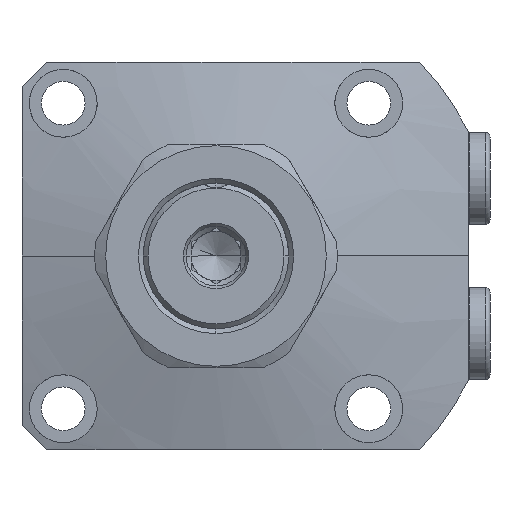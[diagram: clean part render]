
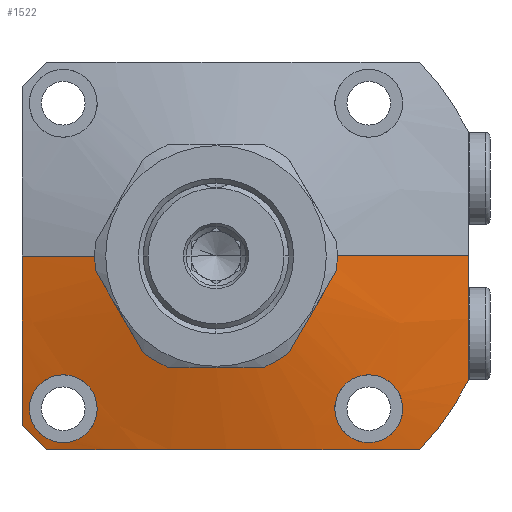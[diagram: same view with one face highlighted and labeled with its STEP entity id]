
A CAD part, left-side view. The second image highlights one B-rep face of the part: STEP entity #1522.
In plain terms, the highlighted conical face has half-angle 75 degrees and reference radius 22.5 mm.
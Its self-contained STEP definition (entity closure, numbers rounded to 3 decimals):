
#1093=FACE_BOUND('',#2146,.T.);
#1094=FACE_BOUND('',#2147,.T.);
#1095=FACE_BOUND('',#2148,.T.);
#1175=B_SPLINE_CURVE_WITH_KNOTS('',3,(#8803,#8804,#8805,#8806,#8807,#8808,
#8809,#8810,#8811,#8812),.UNSPECIFIED.,.F.,.F.,(4,2,2,2,4),(0.,0.25,0.5,
0.75,1.),.UNSPECIFIED.);
#1176=B_SPLINE_CURVE_WITH_KNOTS('',3,(#8821,#8822,#8823,#8824,#8825,#8826,
#8827,#8828,#8829,#8830),.UNSPECIFIED.,.F.,.F.,(4,2,2,2,4),(0.,0.25,0.5,
0.75,1.),.UNSPECIFIED.);
#1187=B_SPLINE_CURVE_WITH_KNOTS('',3,(#9226,#9227,#9228,#9229),
 .UNSPECIFIED.,.F.,.F.,(4,4),(0.,1.),.UNSPECIFIED.);
#1188=B_SPLINE_CURVE_WITH_KNOTS('',3,(#9231,#9232,#9233,#9234),
 .UNSPECIFIED.,.F.,.F.,(4,4),(0.,1.),.UNSPECIFIED.);
#1189=B_SPLINE_CURVE_WITH_KNOTS('',3,(#9236,#9237,#9238,#9239,#9240,#9241),
 .UNSPECIFIED.,.F.,.F.,(4,2,4),(0.,0.5,1.),.UNSPECIFIED.);
#1190=B_SPLINE_CURVE_WITH_KNOTS('',3,(#9242,#9243,#9244,#9245),
 .UNSPECIFIED.,.F.,.F.,(4,4),(0.,1.),.UNSPECIFIED.);
#1191=B_SPLINE_CURVE_WITH_KNOTS('',3,(#9246,#9247,#9248,#9249,#9250,#9251,
#9252,#9253,#9254,#9255),.UNSPECIFIED.,.F.,.F.,(4,2,2,2,4),(0.,0.25,0.5,
0.75,1.),.UNSPECIFIED.);
#1192=B_SPLINE_CURVE_WITH_KNOTS('',3,(#9256,#9257,#9258,#9259,#9260,#9261,
#9262,#9263,#9264,#9265),.UNSPECIFIED.,.F.,.F.,(4,2,2,2,4),(0.,0.25,0.5,
0.75,1.),.UNSPECIFIED.);
#1522=ADVANCED_FACE('',(#1093,#1094,#1095),#1618,.T.);
#1618=CONICAL_SURFACE('',#5888,22.5,75.);
#2146=EDGE_LOOP('',(#3763,#3764,#3765,#3766,#3767,#3768,#3769,#3770));
#2147=EDGE_LOOP('',(#3771,#3772));
#2148=EDGE_LOOP('',(#3773,#3774));
#2384=LINE('',#8882,#2615);
#2385=LINE('',#8908,#2616);
#2615=VECTOR('',#6963,1.);
#2616=VECTOR('',#6966,1.);
#3763=ORIENTED_EDGE('',*,*,#4833,.F.);
#3764=ORIENTED_EDGE('',*,*,#4966,.F.);
#3765=ORIENTED_EDGE('',*,*,#4839,.T.);
#3766=ORIENTED_EDGE('',*,*,#4967,.T.);
#3767=ORIENTED_EDGE('',*,*,#4968,.T.);
#3768=ORIENTED_EDGE('',*,*,#4969,.T.);
#3769=ORIENTED_EDGE('',*,*,#4933,.T.);
#3770=ORIENTED_EDGE('',*,*,#4970,.T.);
#3771=ORIENTED_EDGE('',*,*,#4971,.F.);
#3772=ORIENTED_EDGE('',*,*,#4812,.F.);
#3773=ORIENTED_EDGE('',*,*,#4972,.F.);
#3774=ORIENTED_EDGE('',*,*,#4816,.F.);
#4256=VERTEX_POINT('',#8802);
#4257=VERTEX_POINT('',#8813);
#4260=VERTEX_POINT('',#8820);
#4261=VERTEX_POINT('',#8831);
#4272=VERTEX_POINT('',#8880);
#4273=VERTEX_POINT('',#8881);
#4274=VERTEX_POINT('',#8883);
#4279=VERTEX_POINT('',#8907);
#4347=VERTEX_POINT('',#9138);
#4350=VERTEX_POINT('',#9143);
#4357=VERTEX_POINT('',#9230);
#4358=VERTEX_POINT('',#9235);
#4812=EDGE_CURVE('',#4256,#4257,#1175,.T.);
#4816=EDGE_CURVE('',#4260,#4261,#1176,.T.);
#4833=EDGE_CURVE('',#4272,#4274,#2384,.T.);
#4839=EDGE_CURVE('',#4273,#4279,#2385,.T.);
#4933=EDGE_CURVE('',#4347,#4350,#5293,.T.);
#4966=EDGE_CURVE('',#4273,#4272,#5317,.T.);
#4967=EDGE_CURVE('',#4279,#4357,#1187,.T.);
#4968=EDGE_CURVE('',#4357,#4358,#1188,.T.);
#4969=EDGE_CURVE('',#4358,#4347,#1189,.T.);
#4970=EDGE_CURVE('',#4350,#4274,#1190,.T.);
#4971=EDGE_CURVE('',#4257,#4256,#1191,.T.);
#4972=EDGE_CURVE('',#4261,#4260,#1192,.T.);
#5293=CIRCLE('',#5836,58.);
#5317=CIRCLE('',#5887,22.5);
#5836=AXIS2_PLACEMENT_3D('',#9144,#7168,#7169);
#5887=AXIS2_PLACEMENT_3D('',#9225,#7278,#7279);
#5888=AXIS2_PLACEMENT_3D('',#9266,#7280,#7281);
#6963=DIRECTION('',(0.259,-0.966,0.));
#6966=DIRECTION('',(0.259,0.966,0.));
#7168=DIRECTION('',(-1.,0.,0.));
#7169=DIRECTION('',(0.,-1.,0.));
#7278=DIRECTION('',(-1.,0.,0.));
#7279=DIRECTION('',(0.,-1.,0.));
#7280=DIRECTION('',(1.,0.,0.));
#7281=DIRECTION('',(0.,-1.,0.));
#8802=CARTESIAN_POINT('',(-33.336,-24.5,-31.5));
#8803=CARTESIAN_POINT('',(-33.336,-24.5,-31.5));
#8804=CARTESIAN_POINT('',(-32.947,-24.5,-33.34));
#8805=CARTESIAN_POINT('',(-32.443,-25.238,-35.108));
#8806=CARTESIAN_POINT('',(-31.49,-27.753,-37.68));
#8807=CARTESIAN_POINT('',(-31.039,-29.541,-38.464));
#8808=CARTESIAN_POINT('',(-30.407,-33.192,-38.533));
#8809=CARTESIAN_POINT('',(-30.221,-35.065,-37.807));
#8810=CARTESIAN_POINT('',(-30.212,-37.73,-35.197));
#8811=CARTESIAN_POINT('',(-30.385,-38.5,-33.355));
#8812=CARTESIAN_POINT('',(-30.7,-38.5,-31.5));
#8813=CARTESIAN_POINT('',(-30.7,-38.5,-31.5));
#8820=CARTESIAN_POINT('',(-30.7,38.5,-31.5));
#8821=CARTESIAN_POINT('',(-30.7,38.5,-31.5));
#8822=CARTESIAN_POINT('',(-30.385,38.5,-33.354));
#8823=CARTESIAN_POINT('',(-30.213,37.728,-35.195));
#8824=CARTESIAN_POINT('',(-30.221,35.08,-37.795));
#8825=CARTESIAN_POINT('',(-30.403,33.213,-38.532));
#8826=CARTESIAN_POINT('',(-31.039,29.539,-38.466));
#8827=CARTESIAN_POINT('',(-31.488,27.758,-37.685));
#8828=CARTESIAN_POINT('',(-32.445,25.233,-35.104));
#8829=CARTESIAN_POINT('',(-32.947,24.5,-33.339));
#8830=CARTESIAN_POINT('',(-33.336,24.5,-31.5));
#8831=CARTESIAN_POINT('',(-33.336,24.5,-31.5));
#8880=CARTESIAN_POINT('',(-38.,-22.5,0.));
#8881=CARTESIAN_POINT('',(-38.,22.5,0.));
#8882=CARTESIAN_POINT('',(-38.,-22.5,0.));
#8883=CARTESIAN_POINT('',(-30.095,-52.,0.));
#8907=CARTESIAN_POINT('',(-33.311,40.,0.));
#8908=CARTESIAN_POINT('',(-38.,22.5,0.));
#9138=CARTESIAN_POINT('',(-28.488,-42.,-40.));
#9143=CARTESIAN_POINT('',(-28.488,-52.,-25.69));
#9144=CARTESIAN_POINT('',(-28.488,0.,0.));
#9225=CARTESIAN_POINT('',(-38.,0.,0.));
#9226=CARTESIAN_POINT('',(-33.311,40.,0.));
#9227=CARTESIAN_POINT('',(-33.311,40.,-11.785));
#9228=CARTESIAN_POINT('',(-31.83,40.,-23.421));
#9229=CARTESIAN_POINT('',(-29.787,40.,-35.));
#9230=CARTESIAN_POINT('',(-29.787,40.,-35.));
#9231=CARTESIAN_POINT('',(-29.787,40.,-35.));
#9232=CARTESIAN_POINT('',(-29.829,38.334,-36.666));
#9233=CARTESIAN_POINT('',(-29.829,36.666,-38.334));
#9234=CARTESIAN_POINT('',(-29.787,35.,-40.));
#9235=CARTESIAN_POINT('',(-29.787,35.,-40.));
#9236=CARTESIAN_POINT('',(-29.787,35.,-40.));
#9237=CARTESIAN_POINT('',(-32.039,22.239,-40.));
#9238=CARTESIAN_POINT('',(-33.566,9.448,-40.));
#9239=CARTESIAN_POINT('',(-32.978,-16.291,-40.));
#9240=CARTESIAN_POINT('',(-30.965,-29.233,-40.));
#9241=CARTESIAN_POINT('',(-28.488,-42.,-40.));
#9242=CARTESIAN_POINT('',(-28.488,-52.,-25.69));
#9243=CARTESIAN_POINT('',(-29.501,-52.,-17.157));
#9244=CARTESIAN_POINT('',(-30.095,-52.,-8.597));
#9245=CARTESIAN_POINT('',(-30.095,-52.,0.));
#9246=CARTESIAN_POINT('',(-30.7,-38.5,-31.5));
#9247=CARTESIAN_POINT('',(-31.015,-38.5,-29.642));
#9248=CARTESIAN_POINT('',(-31.46,-37.742,-27.857));
#9249=CARTESIAN_POINT('',(-32.412,-35.21,-25.297));
#9250=CARTESIAN_POINT('',(-32.923,-33.428,-24.53));
#9251=CARTESIAN_POINT('',(-33.701,-29.8,-24.471));
#9252=CARTESIAN_POINT('',(-33.962,-27.932,-25.194));
#9253=CARTESIAN_POINT('',(-33.974,-25.263,-27.813));
#9254=CARTESIAN_POINT('',(-33.726,-24.5,-29.656));
#9255=CARTESIAN_POINT('',(-33.336,-24.5,-31.5));
#9256=CARTESIAN_POINT('',(-33.336,24.5,-31.5));
#9257=CARTESIAN_POINT('',(-33.726,24.5,-29.657));
#9258=CARTESIAN_POINT('',(-33.973,25.265,-27.816));
#9259=CARTESIAN_POINT('',(-33.963,27.913,-25.208));
#9260=CARTESIAN_POINT('',(-33.705,29.777,-24.473));
#9261=CARTESIAN_POINT('',(-32.921,33.435,-24.529));
#9262=CARTESIAN_POINT('',(-32.414,35.206,-25.292));
#9263=CARTESIAN_POINT('',(-31.458,37.747,-27.862));
#9264=CARTESIAN_POINT('',(-31.015,38.5,-29.643));
#9265=CARTESIAN_POINT('',(-30.7,38.5,-31.5));
#9266=CARTESIAN_POINT('',(-38.,0.,0.));
